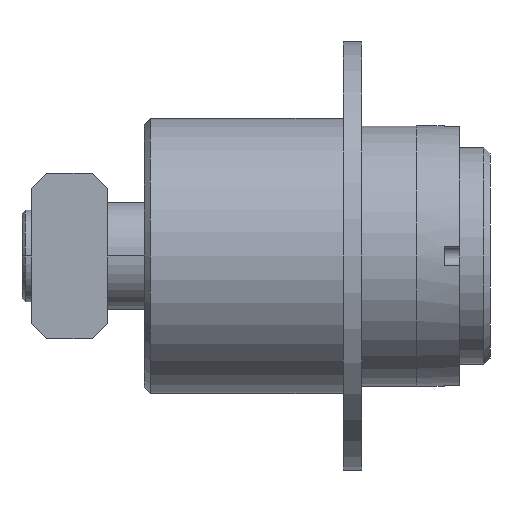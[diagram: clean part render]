
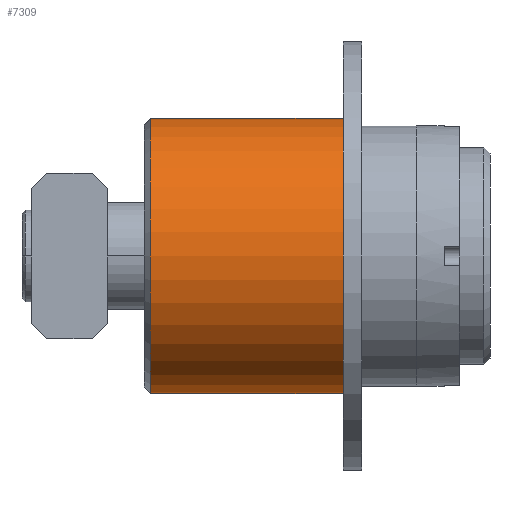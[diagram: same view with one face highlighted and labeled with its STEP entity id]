
A CAD part, front view. The second image highlights one B-rep face of the part: STEP entity #7309.
In plain terms, the highlighted cylindrical face has radius 45 mm (diameter 90 mm), a partial arc.
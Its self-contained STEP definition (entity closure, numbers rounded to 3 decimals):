
#95 = VECTOR ( 'NONE', #1303, 1000. ) ;
#97 = VECTOR ( 'NONE', #1309, 1000. ) ;
#1075 = CARTESIAN_POINT ( 'NONE',  ( 2., 0., 45. ) ) ;
#1076 = CARTESIAN_POINT ( 'NONE',  ( 2., 0., -45. ) ) ;
#1117 = CARTESIAN_POINT ( 'NONE',  ( 65., 0., 45. ) ) ;
#1118 = CARTESIAN_POINT ( 'NONE',  ( 65., 0., -45. ) ) ;
#1301 = LINE ( 'NONE', #1302, #95 ) ;
#1302 = CARTESIAN_POINT ( 'NONE',  ( 0., 0., -45. ) ) ;
#1303 = DIRECTION ( 'NONE',  ( -1., 0., 0. ) ) ;
#1307 = LINE ( 'NONE', #1308, #97 ) ;
#1308 = CARTESIAN_POINT ( 'NONE',  ( 0., 0., 45. ) ) ;
#1309 = DIRECTION ( 'NONE',  ( -1., 0., 0. ) ) ;
#1467 = CARTESIAN_POINT ( 'NONE',  ( 0., 0., 0. ) ) ;
#1468 = DIRECTION ( 'NONE',  ( -1., 0., 0. ) ) ;
#1469 = DIRECTION ( 'NONE',  ( 0., 0., 1. ) ) ;
#1590 = CARTESIAN_POINT ( 'NONE',  ( 65., 0., 0. ) ) ;
#1591 = DIRECTION ( 'NONE',  ( -1., 0., 0. ) ) ;
#1592 = DIRECTION ( 'NONE',  ( 0., 0., 1. ) ) ;
#1593 = CARTESIAN_POINT ( 'NONE',  ( 2., 0., 0. ) ) ;
#1594 = DIRECTION ( 'NONE',  ( 1., 0., 0. ) ) ;
#1595 = DIRECTION ( 'NONE',  ( 0., 0., -1. ) ) ;
#1904 = FACE_OUTER_BOUND ( 'NONE', #5204, .T. ) ;
#1909 = AXIS2_PLACEMENT_3D ( 'NONE', #1467, #1468, #1469 ) ;
#1911 = CYLINDRICAL_SURFACE ( 'NONE', #1909, 45. ) ;
#1970 = AXIS2_PLACEMENT_3D ( 'NONE', #1590, #1591, #1592 ) ;
#1971 = AXIS2_PLACEMENT_3D ( 'NONE', #1593, #1594, #1595 ) ;
#5204 = EDGE_LOOP ( 'NONE', ( #6825, #6826, #6827, #6820 ) ) ;
#6384 = VERTEX_POINT ( 'NONE', #1075 ) ;
#6385 = VERTEX_POINT ( 'NONE', #1076 ) ;
#6426 = VERTEX_POINT ( 'NONE', #1117 ) ;
#6427 = VERTEX_POINT ( 'NONE', #1118 ) ;
#6820 = ORIENTED_EDGE ( 'NONE', *, *, #7351, .T. ) ;
#6825 = ORIENTED_EDGE ( 'NONE', *, *, #7259, .F. ) ;
#6826 = ORIENTED_EDGE ( 'NONE', *, *, #7350, .T. ) ;
#6827 = ORIENTED_EDGE ( 'NONE', *, *, #7261, .T. ) ;
#7259 = EDGE_CURVE ( 'NONE', #6427, #6385, #1301, .T. ) ;
#7261 = EDGE_CURVE ( 'NONE', #6426, #6384, #1307, .T. ) ;
#7309 = ADVANCED_FACE ( 'NONE', ( #1904 ), #1911, .T. ) ;
#7350 = EDGE_CURVE ( 'NONE', #6427, #6426, #9780, .T. ) ;
#7351 = EDGE_CURVE ( 'NONE', #6384, #6385, #9781, .T. ) ;
#9780 = CIRCLE ( 'NONE', #1970, 45. ) ;
#9781 = CIRCLE ( 'NONE', #1971, 45. ) ;
